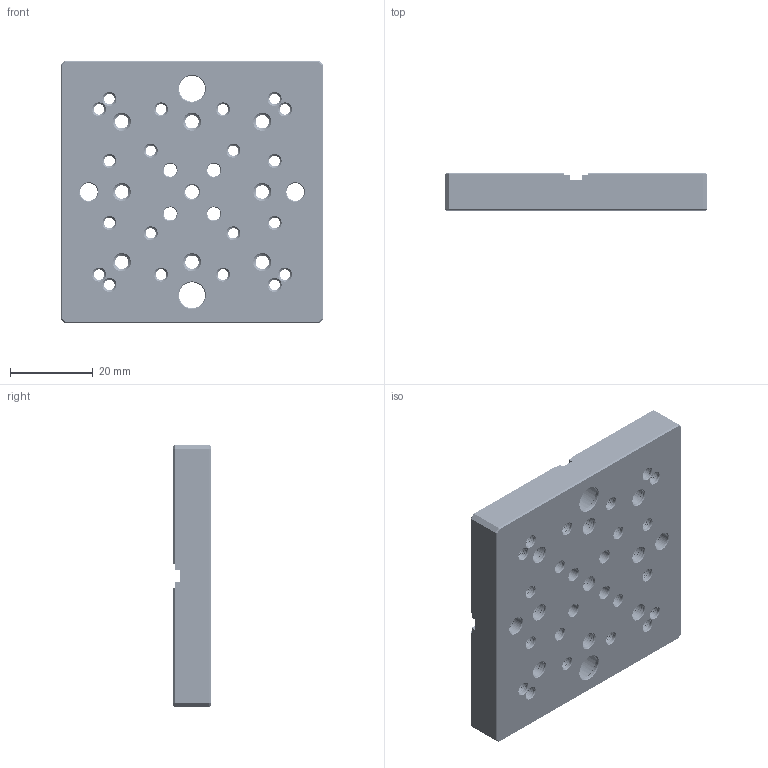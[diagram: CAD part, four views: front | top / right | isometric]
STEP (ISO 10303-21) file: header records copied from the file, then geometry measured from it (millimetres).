
FILE_DESCRIPTION((''),'2;1');
FILE_NAME('OPS-3XAM','2021-12-28T',('Administrator'),(''),'CREO PARAMETRIC BY PTC INC, 2015290','CREO PARAMETRIC BY PTC INC, 2015290','');
FILE_SCHEMA(('CONFIG_CONTROL_DESIGN'));
Products named in the file (1): OPS-3XAM
Bounding box: 63.5 x 9 x 63.5 mm (x, y, z)
Volume: 30950.1 mm3; surface area: 14389 mm2
Topology: 1 solids, 1 shells, 1470 faces, 4129 edges, 2657 vertices
Faces by surface type: cylinder 880, bspline 340, cone 148, plane 102
Entity records: 105501 total; most frequent: CARTESIAN_POINT 72661, ORIENTED_EDGE 8258, DIRECTION 4552, EDGE_CURVE 4129, VERTEX_POINT 2657, B_SPLINE_CURVE_WITH_KNOTS 2210, VECTOR 1546, LINE 1546
